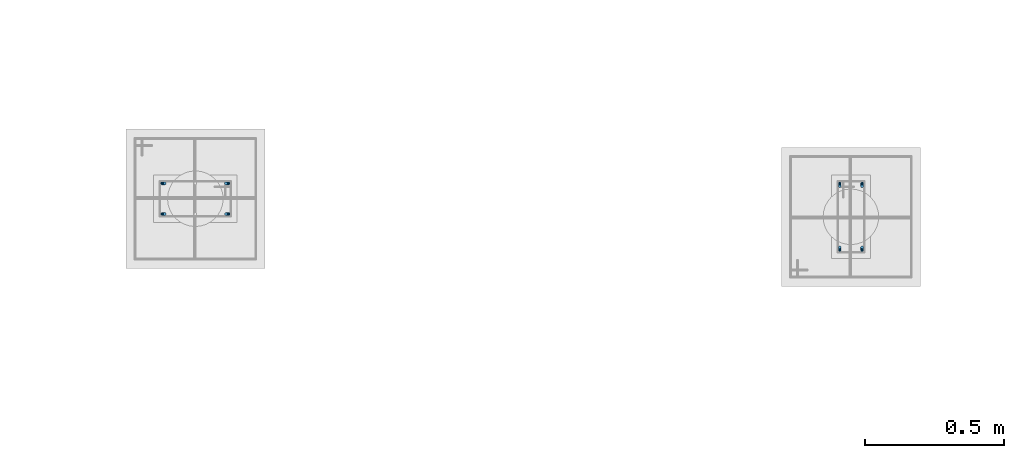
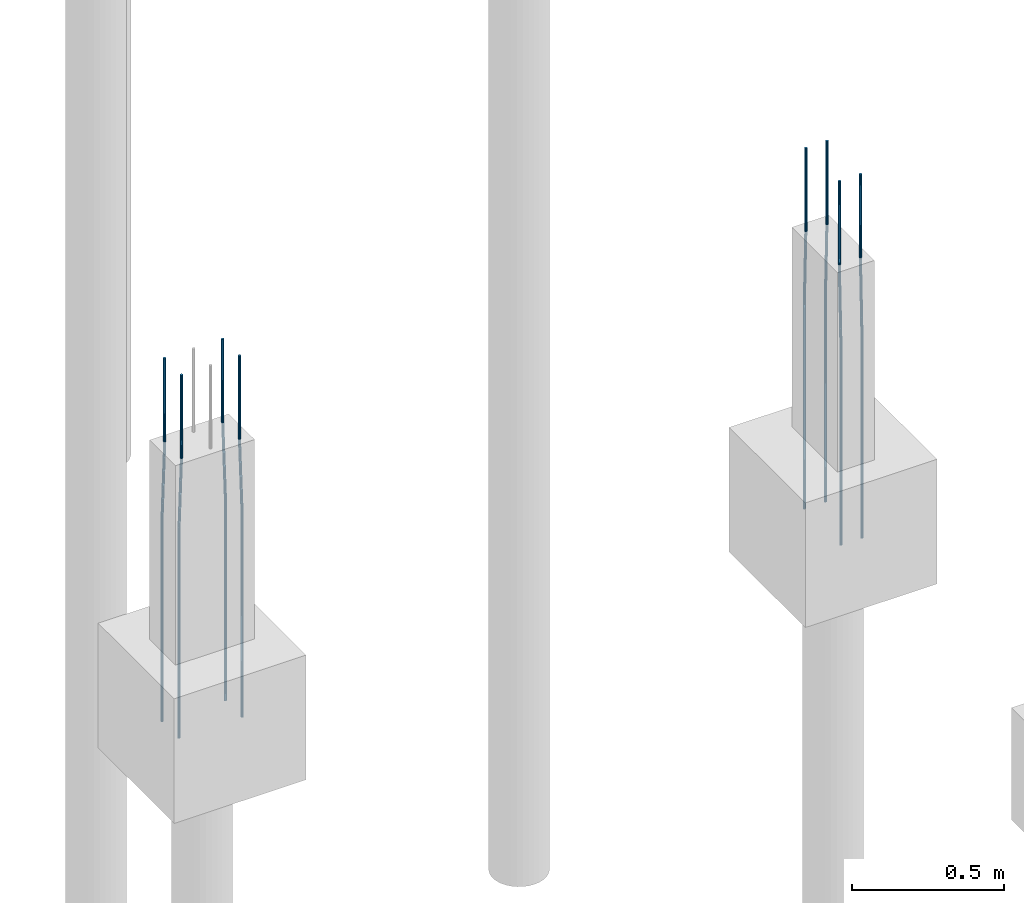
# One storey, part 25 of 119: 8 reinforcing bars.
"""IFC4 building model written with IfcOpenShell, lengths in centimetres."""

import ifcopenshell
import ifcopenshell.guid

model = None  # the IFC model being written
_history = None  # IfcOwnerHistory: only IFC2X3 demands one
_inside = {}  # id of a spatial element -> (the spatial element, [elements in it])
_under = {}  # id of a project, library or spatial element -> (it, [spatial elements below it])
_declared = {}  # id of a project -> (the project, [libraries it declares])
_typed = {}  # id of a type object -> (the type object, [elements of that type])
_made_of = {}  # id of a material, layer set ... -> (it, [elements and type objects made of it])


def new_model(schema):
    """Start an empty IFC model of exactly this schema.

    Asked for "IFC4X3", IfcOpenShell would pick the latest addendum, in which some entities
    have other attributes; the version numbers below select the first issue.
    IFC2X3 requires an IfcOwnerHistory on every rooted entity: one is made here for all.
    """
    global model, _history
    if schema == "IFC4X3":
        model = ifcopenshell.file(schema_version=(4, 3, 0, 0))
    else:
        model = ifcopenshell.file(schema=schema)
    _inside.clear()
    _under.clear()
    _declared.clear()
    _typed.clear()
    _made_of.clear()
    _history = None
    if model.schema == "IFC2X3":
        org = make("IfcOrganization", Name="unknown")
        user = make(
            "IfcPersonAndOrganization",
            ThePerson=make("IfcPerson", FamilyName="unknown"),
            TheOrganization=org,
        )
        app = make(
            "IfcApplication",
            ApplicationDeveloper=org,
            Version="unknown",
            ApplicationFullName="unknown",
            ApplicationIdentifier="unknown",
        )
        _history = make(
            "IfcOwnerHistory",
            OwningUser=user,
            OwningApplication=app,
            ChangeAction="ADDED",
            CreationDate=0,
        )
    return model


def make(cls, **values):
    """One entity of the class cls with the attributes given. An attribute that is None is left unset."""
    return model.create_entity(
        cls, **{name: value for name, value in values.items() if value is not None}
    )


def entity(cls, *values):
    """Any entity or typed value of the class cls, its attributes in the order of the schema. None: left unset."""
    e = model.create_entity(cls)
    for i, value in enumerate(values):
        if value is not None:
            e[i] = value
    return e


def rooted(cls, **values):
    """An entity with a GlobalId (a new one), such as an element, a storey or a relation."""
    return make(cls, GlobalId=ifcopenshell.guid.new(), OwnerHistory=_history, **values)


def si_unit(unit_type, name, prefix=None):
    """IfcSIUnit, for example si_unit("LENGTHUNIT", "METRE", prefix="MILLI")."""
    return make("IfcSIUnit", UnitType=unit_type, Prefix=prefix, Name=name)


def derived_unit(unit_type, elements):
    """IfcDerivedUnit: a product of units, each with its exponent."""
    return make(
        "IfcDerivedUnit",
        Elements=[
            make("IfcDerivedUnitElement", Unit=unit, Exponent=power)
            for unit, power in elements
        ],
        UnitType=unit_type,
    )


def assignment(units):
    """IfcUnitAssignment: the units of a project."""
    return None if units is None else make("IfcUnitAssignment", Units=units)


def point(xyz):
    """IfcCartesianPoint."""
    return None if xyz is None else make("IfcCartesianPoint", Coordinates=xyz)


def direction(xyz):
    """IfcDirection."""
    return None if xyz is None else make("IfcDirection", DirectionRatios=xyz)


def frame(location, z_axis=None, x_axis=None):
    """IfcAxis2Placement3D, a coordinate frame: its origin and axes. An axis left out is left unset."""
    return make(
        "IfcAxis2Placement3D",
        Location=point(location),
        Axis=direction(z_axis),
        RefDirection=direction(x_axis),
    )


def origin_with_axes():
    """The frame at (0, 0, 0) with the z axis (0, 0, 1) and the x axis (1, 0, 0) written out."""
    return frame((0.0, 0.0, 0.0), z_axis=(0.0, 0.0, 1.0), x_axis=(1.0, 0.0, 0.0))


def place(relative_to, where):
    """IfcLocalPlacement: puts the frame where relative to a parent placement (None: the world)."""
    return make(
        "IfcLocalPlacement", PlacementRelTo=relative_to, RelativePlacement=where
    )


def context(
    kind, dimensions, precision=None, world=None, true_north=None, identifier=None
):
    """IfcGeometricRepresentationContext, for example the 3D "Model" context."""
    return make(
        "IfcGeometricRepresentationContext",
        ContextIdentifier=identifier,
        ContextType=kind,
        CoordinateSpaceDimension=dimensions,
        Precision=precision,
        WorldCoordinateSystem=world,
        TrueNorth=true_north,
    )


def project(units=None, contexts=None):
    """IfcProject with its units and contexts."""
    return rooted(
        "IfcProject",
        Name="project",
        RepresentationContexts=contexts,
        UnitsInContext=assignment(units),
    )


def spatial(cls, under=None, at=None, **own):
    """A site, building, storey or space (cls), placed at a placement, below another one or the project."""
    s = rooted(cls, ObjectPlacement=at, **own)
    if under is not None:
        _under.setdefault(under.id(), (under, []))[1].append(s)
    return s


def shape(context_of_items, identifier, shape_type, items):
    """IfcShapeRepresentation: the items that make up one representation, for example the "Body"."""
    return make(
        "IfcShapeRepresentation",
        ContextOfItems=context_of_items,
        RepresentationIdentifier=identifier,
        RepresentationType=shape_type,
        Items=items,
    )


def made_of(thing, what):
    """Note that an element or type object is made of a material, layer set ...; save() writes the relation."""
    if what is not None:
        _made_of.setdefault(what.id(), (what, []))[1].append(thing)
    return thing


def element(
    cls,
    number,
    at=None,
    inside=None,
    cuts=None,
    type_object=None,
    material=None,
    context=None,
    identifier="Body",
    shape_type=None,
    held_by="IfcProductDefinitionShape",
    body=None,
    shapes=None,
    **own,
):
    """One element of the class cls, such as IfcWall. Its Tag is "e" and its number.

    at: its placement. inside: the storey or other place that contains it. cuts: it is an
    opening in that element (IfcRelVoidsElement). A single representation is given by context,
    identifier, shape_type and body (its items); several are given by shapes. held_by: the class
    of the entity that holds the representations. save() writes the other relations.
    """
    e = rooted(cls, Tag="e%d" % number, ObjectPlacement=at, **own)
    if body is not None:
        shapes = [shape(context, identifier, shape_type, body)]
    if shapes is not None:
        e.Representation = make(held_by, Representations=shapes)
    if inside is not None:
        _inside.setdefault(inside.id(), (inside, []))[1].append(e)
    if cuts is not None:
        rooted(
            "IfcRelVoidsElement", RelatingBuildingElement=cuts, RelatedOpeningElement=e
        )
    if type_object is not None:
        _typed.setdefault(type_object.id(), (type_object, []))[1].append(e)
    return made_of(e, material)


def aggregate(whole, parts):
    """IfcRelAggregates: a whole, such as a stair, and the parts it consists of."""
    return rooted("IfcRelAggregates", RelatingObject=whole, RelatedObjects=parts)


def save(model, path):
    """Write the relations noted so far, then the file.

    IfcRelAggregates (storeys below a building ...), IfcRelContainedInSpatialStructure (elements
    in a storey), IfcRelDefinesByType, IfcRelAssociatesMaterial and IfcRelDeclares: one each for
    every whole, place, type object, material and project.
    """
    for whole, parts in _under.values():
        aggregate(whole, parts)
    for where, things in _inside.values():
        rooted(
            "IfcRelContainedInSpatialStructure",
            RelatedElements=things,
            RelatingStructure=where,
        )
    for kind, things in _typed.values():
        rooted("IfcRelDefinesByType", RelatedObjects=things, RelatingType=kind)
    for what, things in _made_of.values():
        rooted("IfcRelAssociatesMaterial", RelatedObjects=things, RelatingMaterial=what)
    for by, libraries in _declared.values():
        rooted("IfcRelDeclares", RelatingContext=by, RelatedDefinitions=libraries)
    model.write(path)


model = new_model("IFC4")

# Units and contexts
model_context = context("Model", 3, precision=1e-05, world=origin_with_axes(), identifier="Body")
ifc_project = project(units=[si_unit("LENGTHUNIT", "METRE", prefix="CENTI"), si_unit("VOLUMEUNIT", "CUBIC_METRE"), si_unit("AREAUNIT", "SQUARE_METRE"), si_unit("POWERUNIT", "WATT"), si_unit("LUMINOUSFLUXUNIT", "LUMEN"), si_unit("ELECTRICCURRENTUNIT", "AMPERE"), si_unit("PRESSUREUNIT", "PASCAL", prefix="KILO"), si_unit("MASSUNIT", "GRAM", prefix="KILO"), si_unit("PLANEANGLEUNIT", "RADIAN"), derived_unit("VOLUMETRICFLOWRATEUNIT", [(si_unit("LENGTHUNIT", "METRE"), 3), (si_unit("TIMEUNIT", "SECOND"), -1)])], contexts=[model_context])

# Site, building, storey
site_placement = place(None, frame((-4000.0, 0.0, 0.0), z_axis=(0.0, 0.0, 1.0), x_axis=(1.0, 0.0, 0.0)))
site = spatial("IfcSite", under=ifc_project, at=site_placement, Name="PADRÃO")
building_placement = place(site_placement, frame((0.0, 0.0, -14.0)))
building = spatial("IfcBuilding", under=site, at=building_placement, Name="CRECHE PRÉ-ESCOLA TIPO 2")
storey_placement = place(building_placement, origin_with_axes())
storey = spatial("IfcBuildingStorey", under=building, at=storey_placement, Name="FUNDAÇÃO", CompositionType="ELEMENT", Elevation=-14.0)

# Reinforcing bars
reinforcing_bar_1_placement = place(storey_placement, frame((256.5, 2678.01, 33.3573001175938), z_axis=(0.0, 0.0, 1.0), x_axis=(1.0, 0.0, 0.0)))
element("IfcReinforcingBar", 1, at=reinforcing_bar_1_placement, inside=storey, Name="P65 - Longitudinal", BarLength=0.0, CrossSectionArea=7.853981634e-05, NominalDiameter=1.0, PredefinedType="MAIN", context=model_context, shape_type="AdvancedSweptSolid", body=[
    entity("IfcSweptDiskSolid", entity("IfcCompositeCurve", [entity("IfcCompositeCurveSegment", "CONTINUOUS", True, entity("IfcPolyline", [entity("IfcCartesianPoint", [-0.5, 0.0, -145.357300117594]), entity("IfcCartesianPoint", [-0.5, 0.0, -63.3573001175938])])), entity("IfcCompositeCurveSegment", "CONTINUOUS", True, entity("IfcPolyline", [entity("IfcCartesianPoint", [-0.5, 0.0, -63.3573001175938]), entity("IfcCartesianPoint", [0.5, 0.0, -33.3573001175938])])), entity("IfcCompositeCurveSegment", "CONTINUOUS", True, entity("IfcPolyline", [entity("IfcCartesianPoint", [0.5, 0.0, -33.3573001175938]), entity("IfcCartesianPoint", [0.5, 0.0, 0.0])]))], False), 0.5),
])
reinforcing_bar_2_placement = place(storey_placement, frame((279.5, 2689.01, 33.3573001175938), z_axis=(0.0, 0.0, 1.0), x_axis=(1.0, 0.0, 0.0)))
element("IfcReinforcingBar", 2, at=reinforcing_bar_2_placement, inside=storey, Name="P65 - Longitudinal", BarLength=0.0, CrossSectionArea=7.853981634e-05, NominalDiameter=1.0, PredefinedType="MAIN", context=model_context, shape_type="AdvancedSweptSolid", body=[
    entity("IfcSweptDiskSolid", entity("IfcCompositeCurve", [entity("IfcCompositeCurveSegment", "CONTINUOUS", True, entity("IfcPolyline", [entity("IfcCartesianPoint", [0.5, 0.0, -145.357300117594]), entity("IfcCartesianPoint", [0.5, 0.0, -63.3573001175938])])), entity("IfcCompositeCurveSegment", "CONTINUOUS", True, entity("IfcPolyline", [entity("IfcCartesianPoint", [0.5, 0.0, -63.3573001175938]), entity("IfcCartesianPoint", [-0.5, 0.0, -33.3573001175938])])), entity("IfcCompositeCurveSegment", "CONTINUOUS", True, entity("IfcPolyline", [entity("IfcCartesianPoint", [-0.5, 0.0, -33.3573001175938]), entity("IfcCartesianPoint", [-0.5, 0.0, 0.0])]))], False), 0.5),
])
reinforcing_bar_3_placement = place(storey_placement, frame((256.5, 2689.01, 33.3573001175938), z_axis=(0.0, 0.0, 1.0), x_axis=(1.0, 0.0, 0.0)))
element("IfcReinforcingBar", 3, at=reinforcing_bar_3_placement, inside=storey, Name="P65 - Longitudinal", BarLength=0.0, CrossSectionArea=7.853981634e-05, NominalDiameter=1.0, PredefinedType="MAIN", context=model_context, shape_type="AdvancedSweptSolid", body=[
    entity("IfcSweptDiskSolid", entity("IfcCompositeCurve", [entity("IfcCompositeCurveSegment", "CONTINUOUS", True, entity("IfcPolyline", [entity("IfcCartesianPoint", [-0.5, 0.0, -145.357300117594]), entity("IfcCartesianPoint", [-0.5, 0.0, -63.3573001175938])])), entity("IfcCompositeCurveSegment", "CONTINUOUS", True, entity("IfcPolyline", [entity("IfcCartesianPoint", [-0.5, 0.0, -63.3573001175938]), entity("IfcCartesianPoint", [0.5, 0.0, -33.3573001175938])])), entity("IfcCompositeCurveSegment", "CONTINUOUS", True, entity("IfcPolyline", [entity("IfcCartesianPoint", [0.5, 0.0, -33.3573001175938]), entity("IfcCartesianPoint", [0.5, 0.0, 0.0])]))], False), 0.5),
])
reinforcing_bar_4_placement = place(storey_placement, frame((279.5, 2678.01, 33.3573001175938), z_axis=(0.0, 0.0, 1.0), x_axis=(1.0, 0.0, 0.0)))
element("IfcReinforcingBar", 4, at=reinforcing_bar_4_placement, inside=storey, Name="P65 - Longitudinal", BarLength=0.0, CrossSectionArea=7.853981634e-05, NominalDiameter=1.0, PredefinedType="MAIN", context=model_context, shape_type="AdvancedSweptSolid", body=[
    entity("IfcSweptDiskSolid", entity("IfcCompositeCurve", [entity("IfcCompositeCurveSegment", "CONTINUOUS", True, entity("IfcPolyline", [entity("IfcCartesianPoint", [0.5, 0.0, -145.357300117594]), entity("IfcCartesianPoint", [0.5, 0.0, -63.3573001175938])])), entity("IfcCompositeCurveSegment", "CONTINUOUS", True, entity("IfcPolyline", [entity("IfcCartesianPoint", [0.5, 0.0, -63.3573001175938]), entity("IfcCartesianPoint", [-0.5, 0.0, -33.3573001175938])])), entity("IfcCompositeCurveSegment", "CONTINUOUS", True, entity("IfcPolyline", [entity("IfcCartesianPoint", [-0.5, 0.0, -33.3573001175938]), entity("IfcCartesianPoint", [-0.5, 0.0, 0.0])]))], False), 0.5),
])
for number, where, z_axis, x_axis, name in (
    (5, (499.69, 2665.51, 33.3573001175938), (0.0, 0.0, 1.0), (1.0, 0.0, 0.0), "P66 - Longitudinal"),
    (6, (507.69, 2665.51, 33.3573001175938), (0.0, 0.0, 1.0), (1.0, 0.0, 0.0), "P66 - Longitudinal"),
):
    element("IfcReinforcingBar", number, at=place(storey_placement, frame(where, z_axis=z_axis, x_axis=x_axis)), inside=storey, Name=name, BarLength=0.0, CrossSectionArea=7.853981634e-05, NominalDiameter=1.0, PredefinedType="MAIN", context=model_context, shape_type="AdvancedSweptSolid", body=[
        entity("IfcSweptDiskSolid", entity("IfcCompositeCurve", [entity("IfcCompositeCurveSegment", "CONTINUOUS", True, entity("IfcPolyline", [entity("IfcCartesianPoint", [0.0, -0.5, -145.357300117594]), entity("IfcCartesianPoint", [0.0, -0.5, -63.3573001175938])])), entity("IfcCompositeCurveSegment", "CONTINUOUS", True, entity("IfcPolyline", [entity("IfcCartesianPoint", [0.0, -0.5, -63.3573001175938]), entity("IfcCartesianPoint", [0.0, 0.5, -33.3573001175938])])), entity("IfcCompositeCurveSegment", "CONTINUOUS", True, entity("IfcPolyline", [entity("IfcCartesianPoint", [0.0, 0.5, -33.3573001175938]), entity("IfcCartesianPoint", [0.0, 0.5, 0.0])]))], False), 0.5),
    ])
for number, where, z_axis, x_axis, name in (
    (7, (507.69, 2688.51, 33.3573001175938), (0.0, 0.0, 1.0), (1.0, 0.0, 0.0), "P66 - Longitudinal"),
    (8, (499.69, 2688.51, 33.3573001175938), (0.0, 0.0, 1.0), (1.0, 0.0, 0.0), "P66 - Longitudinal"),
):
    element("IfcReinforcingBar", number, at=place(storey_placement, frame(where, z_axis=z_axis, x_axis=x_axis)), inside=storey, Name=name, BarLength=0.0, CrossSectionArea=7.853981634e-05, NominalDiameter=1.0, PredefinedType="MAIN", context=model_context, shape_type="AdvancedSweptSolid", body=[
        entity("IfcSweptDiskSolid", entity("IfcCompositeCurve", [entity("IfcCompositeCurveSegment", "CONTINUOUS", True, entity("IfcPolyline", [entity("IfcCartesianPoint", [0.0, 0.5, -145.357300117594]), entity("IfcCartesianPoint", [0.0, 0.5, -63.3573001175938])])), entity("IfcCompositeCurveSegment", "CONTINUOUS", True, entity("IfcPolyline", [entity("IfcCartesianPoint", [0.0, 0.5, -63.3573001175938]), entity("IfcCartesianPoint", [0.0, -0.5, -33.3573001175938])])), entity("IfcCompositeCurveSegment", "CONTINUOUS", True, entity("IfcPolyline", [entity("IfcCartesianPoint", [0.0, -0.5, -33.3573001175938]), entity("IfcCartesianPoint", [0.0, -0.5, 0.0])]))], False), 0.5),
    ])

save(model, "model.ifc")
